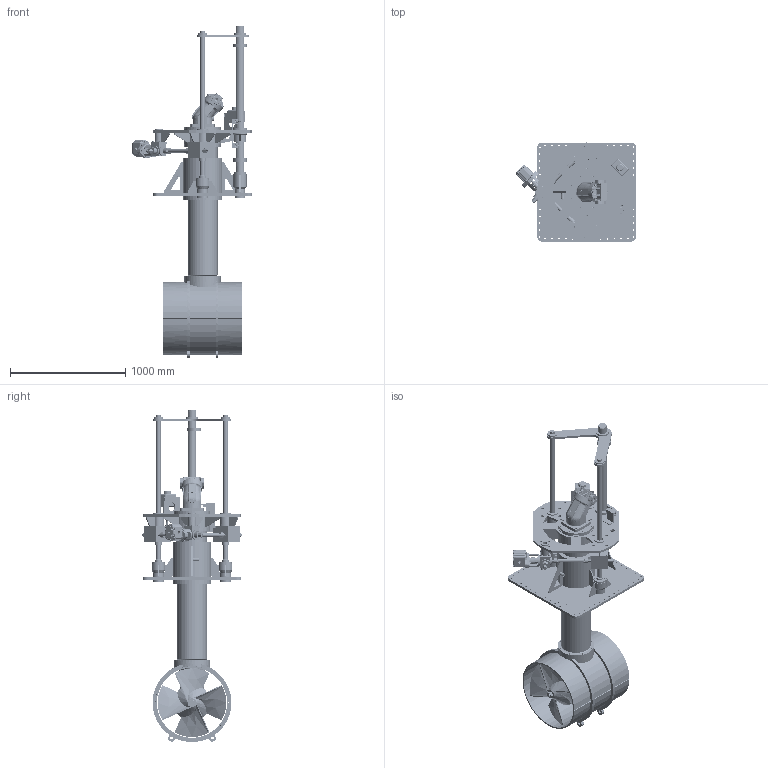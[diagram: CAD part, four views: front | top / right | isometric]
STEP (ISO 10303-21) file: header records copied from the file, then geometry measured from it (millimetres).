
FILE_DESCRIPTION(/* description */ (''),/* implementation_level */ '2;1');
FILE_NAME(/* name */ 'Q:\THRUSTERS\THRUSTER SALES & SUPPORT DOCS\THRUSTER Sales\H-V\H-0600-V\H-0600-V-DEPLOYED.stp',/* time_stamp */ '2020-03-17T14:31:33+00:00',/* author */ ('charlotte.richardson'),/* organization */ (''),/* preprocessor_version */ 'ST-DEVELOPER v17',/* originating_system */ 'Autodesk Inventor 2019',/* authorisation */ '');
FILE_SCHEMA (('AUTOMOTIVE_DESIGN { 1 0 10303 214 3 1 1 }'));
Products named in the file (1): H-0600-V_Shrinkwrap_2
Bounding box: 1043.61 x 862.67 x 2884.2 mm (x, y, z)
Volume: 132900238.6 mm3; surface area: 13197273.6 mm2
Topology: 10 solids, 10 shells, 5175 faces, 13540 edges, 8722 vertices
Faces by surface type: plane 2245, bspline 1249, cylinder 1135, cone 404, torus 116, sphere 26
Full cylindrical faces by diameter (mm): 3 x6, 4 x8, 4.2 x2, 5 x2, 7.2 x2, 8 x5, 9 x1, 9.525 x2, 10.25 x36, 10.3 x40, 10.5 x24, 12 x11, 12.4 x10, 12.5 x20, 13 x66, 13.376 x1, 13.44 x1, 14.287 x1, 14.3 x1, 14.32 x2, 15.25 x6, 15.8 x13, 16 x18, 16.5 x4, 17 x27, 17.5 x6, 18 x4, 18.25 x2, 18.376 x2, 19 x12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
Entity records: 254679 total; most frequent: CARTESIAN_POINT 128494, ORIENTED_EDGE 26872, DIRECTION 22297, EDGE_CURVE 13436, VERTEX_POINT 8721, AXIS2_PLACEMENT_3D 7920, LINE 6457, VECTOR 6457
